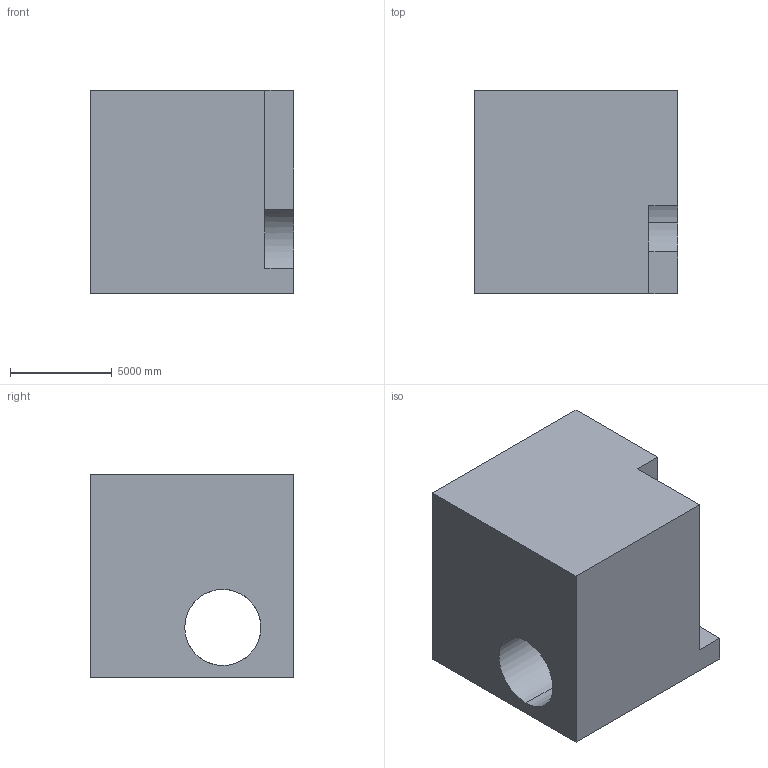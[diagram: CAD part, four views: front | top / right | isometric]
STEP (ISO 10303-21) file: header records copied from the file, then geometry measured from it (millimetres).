
FILE_DESCRIPTION (( 'STEP AP203' ), '1' );
FILE_NAME ('90.STEP', '2022-07-28T13:35:28', ( 'user' ), ( '' ), 'SwSTEP 2.0', 'SolidWorks 2021', '' );
FILE_SCHEMA (( 'CONFIG_CONTROL_DESIGN' ));
Length unit declared in the file: centimetre
Products named in the file (1): 90
Bounding box: 10000 x 10000 x 10000 mm (x, y, z)
Volume: 846731844331.8 mm3; surface area: 681059398.6 mm2
Topology: 1 solids, 1 shells, 11 faces, 30 edges, 20 vertices
Faces by surface type: plane 9, cylinder 2
Entity records: 431 total; most frequent: CARTESIAN_POINT 62, DIRECTION 60, ORIENTED_EDGE 60, EDGE_CURVE 30, LINE 24, VECTOR 24, VERTEX_POINT 20, AXIS2_PLACEMENT_3D 18
